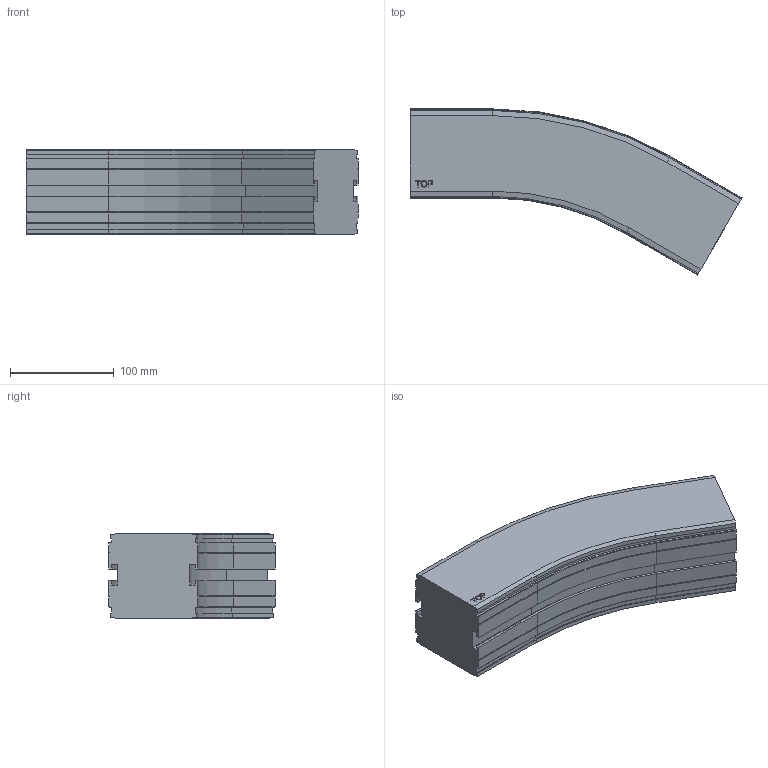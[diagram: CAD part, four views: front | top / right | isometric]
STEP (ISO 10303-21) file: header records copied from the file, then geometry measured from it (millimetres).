
FILE_DESCRIPTION((''),'2;1');
FILE_NAME('C:\Vault Klient\Projekt\Koncept konstruktion\Serie 830 Balk\830-5190.stp','2009-11-27T09:34:35',('Mathias'),(''),'Autodesk Inventor 2010','Autodesk Inventor 2010','');
FILE_SCHEMA(('AUTOMOTIVE_DESIGN { 1 0 10303 214 1 1 1 1 }'));
Length unit declared in the file: millimetre
Products named in the file (1): 830-5190
Bounding box: 320.78 x 160.43 x 81.5 mm (x, y, z)
Volume: 2107589.1 mm3; surface area: 142859.3 mm2
Topology: 1 solids, 1 shells, 169 faces, 446 edges, 284 vertices
Faces by surface type: plane 109, cylinder 30, bspline 14, cone 12, torus 4
Entity records: 5295 total; most frequent: CARTESIAN_POINT 1094, ORIENTED_EDGE 892, DIRECTION 802, EDGE_CURVE 446, VECTOR 346, LINE 346, VERTEX_POINT 284, AXIS2_PLACEMENT_3D 228
